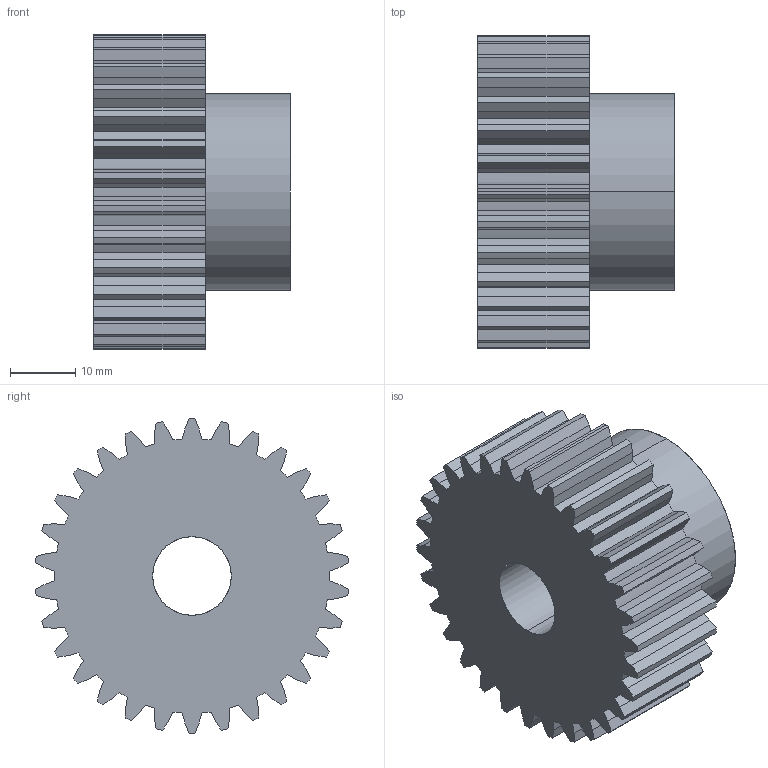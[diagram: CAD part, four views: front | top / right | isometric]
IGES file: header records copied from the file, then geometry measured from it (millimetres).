
Start section: SolidWorks IGES file using analytic representation for surfaces
Global section: file name: C:\Users\Honza\Desktop\Matis (Hotove)\Èelní ozubená kola\PM\MODUL 1,5\PM 27030.IGS; native system: SolidWorks 2010; preprocessor: SolidWorks 2010; author: Honza; date: 130924.120907; units: millimetre
Bounding box: 30 x 47.83 x 48 mm (x, y, z)
Surface area: 9795.9 mm2 (no closed solid volume)
Topology: 0 solids, 0 shells, 188 faces, 1296 edges, 1296 vertices
Faces by surface type: bspline 123, revolution 65
